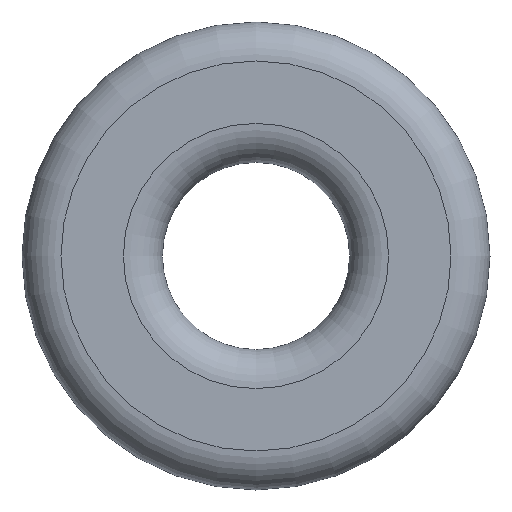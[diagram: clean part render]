
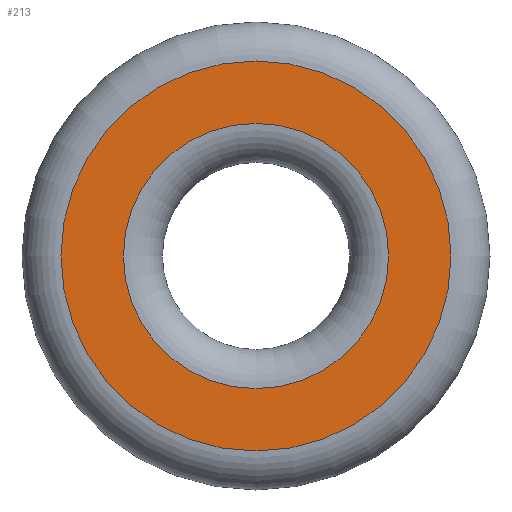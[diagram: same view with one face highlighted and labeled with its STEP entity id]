
A CAD part, front view. The second image highlights one B-rep face of the part: STEP entity #213.
In plain terms, the highlighted planar face has unit normal (0, -1, 0).
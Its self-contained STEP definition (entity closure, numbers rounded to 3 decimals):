
#66 = TOROIDAL_SURFACE('',#67,25.,5.);
#67 = AXIS2_PLACEMENT_3D('',#68,#69,#70);
#68 = CARTESIAN_POINT('',(0.,-7.,0.));
#69 = DIRECTION('',(0.,-1.,-0.));
#70 = DIRECTION('',(1.,0.,0.));
#109 = VERTEX_POINT('',#110);
#110 = CARTESIAN_POINT('',(25.,-12.,0.));
#132 = EDGE_CURVE('',#109,#109,#133,.T.);
#133 = SURFACE_CURVE('',#134,(#139,#146),.PCURVE_S1.);
#134 = CIRCLE('',#135,25.);
#135 = AXIS2_PLACEMENT_3D('',#136,#137,#138);
#136 = CARTESIAN_POINT('',(0.,-12.,0.));
#137 = DIRECTION('',(0.,-1.,-0.));
#138 = DIRECTION('',(1.,0.,0.));
#139 = PCURVE('',#66,#140);
#140 = DEFINITIONAL_REPRESENTATION('',(#141),#145);
#141 = LINE('',#142,#143);
#142 = CARTESIAN_POINT('',(0.,1.571));
#143 = VECTOR('',#144,1.);
#144 = DIRECTION('',(1.,0.));
#145 = ( GEOMETRIC_REPRESENTATION_CONTEXT(2) 
PARAMETRIC_REPRESENTATION_CONTEXT() REPRESENTATION_CONTEXT('2D SPACE',''
  ) );
#146 = PCURVE('',#147,#152);
#147 = PLANE('',#148);
#148 = AXIS2_PLACEMENT_3D('',#149,#150,#151);
#149 = CARTESIAN_POINT('',(0.,-12.,0.)
  );
#150 = DIRECTION('',(-0.,-1.,-0.));
#151 = DIRECTION('',(0.,0.,-1.));
#152 = DEFINITIONAL_REPRESENTATION('',(#153),#157);
#153 = CIRCLE('',#154,25.);
#154 = AXIS2_PLACEMENT_2D('',#155,#156);
#155 = CARTESIAN_POINT('',(0.,0.));
#156 = DIRECTION('',(0.,1.));
#157 = ( GEOMETRIC_REPRESENTATION_CONTEXT(2) 
PARAMETRIC_REPRESENTATION_CONTEXT() REPRESENTATION_CONTEXT('2D SPACE',''
  ) );
#213 = ADVANCED_FACE('',(#214,#217),#147,.T.);
#214 = FACE_BOUND('',#215,.T.);
#215 = EDGE_LOOP('',(#216));
#216 = ORIENTED_EDGE('',*,*,#132,.T.);
#217 = FACE_BOUND('',#218,.T.);
#218 = EDGE_LOOP('',(#219));
#219 = ORIENTED_EDGE('',*,*,#220,.F.);
#220 = EDGE_CURVE('',#221,#221,#223,.T.);
#221 = VERTEX_POINT('',#222);
#222 = CARTESIAN_POINT('',(17.,-12.,0.));
#223 = SURFACE_CURVE('',#224,(#229,#236),.PCURVE_S1.);
#224 = CIRCLE('',#225,17.);
#225 = AXIS2_PLACEMENT_3D('',#226,#227,#228);
#226 = CARTESIAN_POINT('',(0.,-12.,0.)
  );
#227 = DIRECTION('',(0.,-1.,-0.));
#228 = DIRECTION('',(1.,0.,0.));
#229 = PCURVE('',#147,#230);
#230 = DEFINITIONAL_REPRESENTATION('',(#231),#235);
#231 = CIRCLE('',#232,17.);
#232 = AXIS2_PLACEMENT_2D('',#233,#234);
#233 = CARTESIAN_POINT('',(0.,0.));
#234 = DIRECTION('',(0.,1.));
#235 = ( GEOMETRIC_REPRESENTATION_CONTEXT(2) 
PARAMETRIC_REPRESENTATION_CONTEXT() REPRESENTATION_CONTEXT('2D SPACE',''
  ) );
#236 = PCURVE('',#237,#242);
#237 = TOROIDAL_SURFACE('',#238,17.,5.);
#238 = AXIS2_PLACEMENT_3D('',#239,#240,#241);
#239 = CARTESIAN_POINT('',(0.,-7.,0.));
#240 = DIRECTION('',(0.,-1.,-0.));
#241 = DIRECTION('',(1.,0.,0.));
#242 = DEFINITIONAL_REPRESENTATION('',(#243),#247);
#243 = LINE('',#244,#245);
#244 = CARTESIAN_POINT('',(0.,1.571));
#245 = VECTOR('',#246,1.);
#246 = DIRECTION('',(1.,0.));
#247 = ( GEOMETRIC_REPRESENTATION_CONTEXT(2) 
PARAMETRIC_REPRESENTATION_CONTEXT() REPRESENTATION_CONTEXT('2D SPACE',''
  ) );
